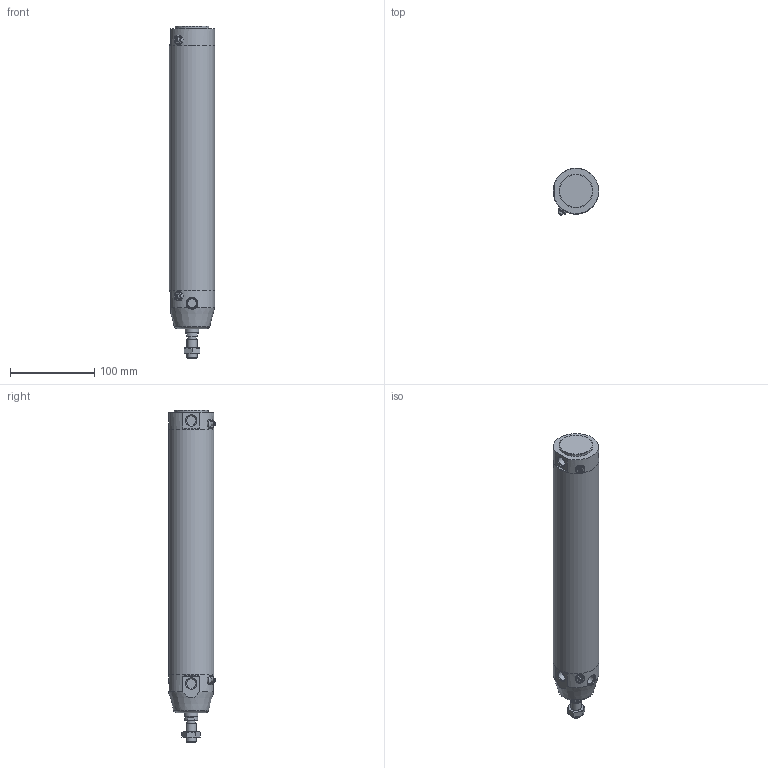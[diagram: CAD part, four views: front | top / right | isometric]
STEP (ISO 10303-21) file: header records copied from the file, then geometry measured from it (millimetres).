
FILE_DESCRIPTION(/* description */ (''),/* implementation_level */ '2;1');
FILE_NAME(/* name */ 'I:\Area Tecnica\Documenti\A-Manieri\_Inventor\12X\12X#E_###_####_#_#\12XBE_050_0250_#_#.stp',/* time_stamp */ '2015-05-08T13:58:11+02:00',/* author */ ('maniean1'),/* organization */ ('Pneumax S.p.A.'),/* preprocessor_version */ 'ST-DEVELOPER v15.2',/* originating_system */ 'Autodesk Inventor 2014',/* authorisation */ '');
FILE_SCHEMA (('AUTOMOTIVE_DESIGN { 1 0 10303 214 3 1 1 }'));
Length unit declared in the file: millimetre
Products named in the file (6): C1250_619-0250; 12X50_623; S12X50_0250; 12X_50_11; 12X50_612; 12XBE_050_0250_#_#
Bounding box: 54 x 55.88 x 395 mm (x, y, z)
Volume: 371357 mm3; surface area: 146148.4 mm2
Topology: 5 solids, 5 shells, 83 faces, 174 edges, 112 vertices
Faces by surface type: plane 45, cylinder 22, cone 13, torus 3
Full cylindrical faces by diameter (mm): 5 x2, 10.2 x1, 10.9 x2, 11 x2, 11.4 x2, 12 x2, 14 x1, 14.1 x2, 15.6 x1, 16 x1, 40 x1, 50 x2, 54 x3
Entity records: 2203 total; most frequent: CARTESIAN_POINT 508, DIRECTION 359, ORIENTED_EDGE 254, AXIS2_PLACEMENT_3D 161, EDGE_LOOP 136, EDGE_CURVE 127, VERTEX_POINT 101, ADVANCED_FACE 83
